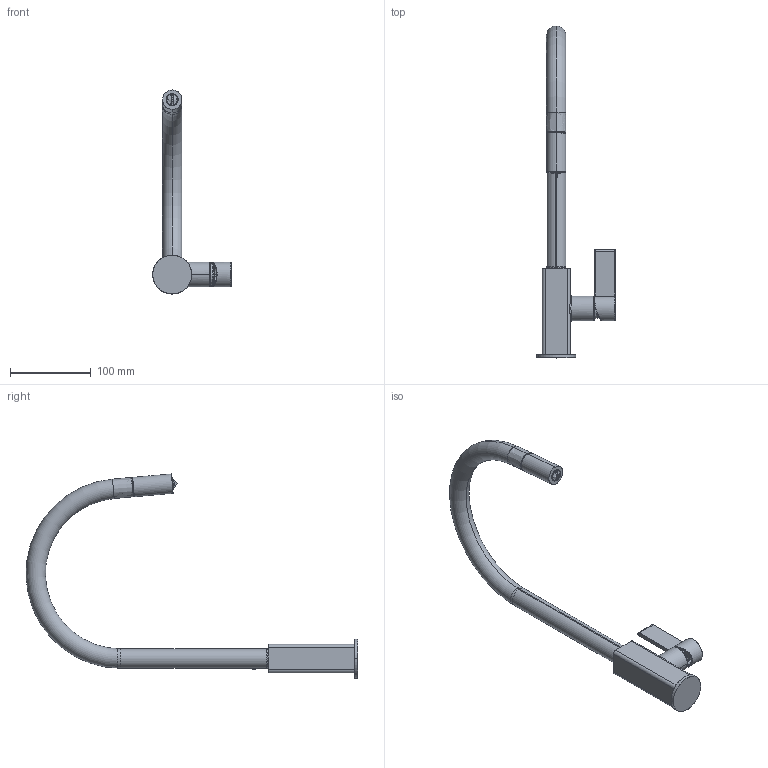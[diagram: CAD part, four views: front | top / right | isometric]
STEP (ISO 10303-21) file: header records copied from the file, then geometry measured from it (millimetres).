
FILE_DESCRIPTION(/* description */ (''),/* implementation_level */ '2;1');
FILE_NAME(/* name */ 'MRMG4DCR_igs.stp',/* time_stamp */ '2019-09-11T15:16:23+02:00',/* author */ (''),/* organization */ (''),/* preprocessor_version */ 'ST-DEVELOPER v16',/* originating_system */ 'SIEMENS PLM Software NX 11.0',/* authorisation */ '');
FILE_SCHEMA (('AUTOMOTIVE_DESIGN { 1 0 10303 214 3 1 1 1 }'));
Length unit declared in the file: millimetre
Products named in the file (1): Mart259CE25Enply
Bounding box: 96.9 x 409.69 x 251.92 mm (x, y, z)
Surface area: 81010.3 mm2 (no closed solid volume)
Topology: 0 solids, 138 shells, 138 faces, 609 edges, 604 vertices
Faces by surface type: cylinder 42, bspline 34, plane 29, torus 25, cone 6, sphere 2
Entity records: 9396 total; most frequent: CARTESIAN_POINT 3953, DIRECTION 823, ORIENTED_EDGE 604, VERTEX_POINT 604, EDGE_CURVE 604, AXIS2_PLACEMENT_3D 328, CIRCLE 223, LINE 167
